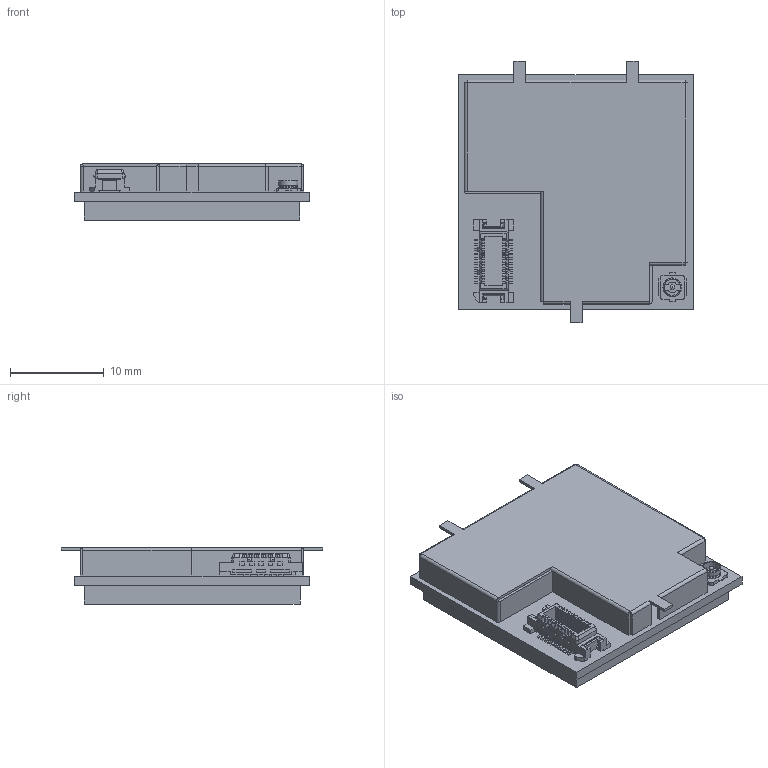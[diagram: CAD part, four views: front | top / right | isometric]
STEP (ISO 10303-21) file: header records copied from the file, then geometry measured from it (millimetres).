
FILE_DESCRIPTION( ( 'Unknown' ), '1' );
FILE_NAME( 'F:/ARCH/R1270C/Mec/Master/R1270C_CS.stp', 'Unknown', ( 'Unknown' ), ( 'Unknown' ), 'PSStep 16.0.42', 'Unknown', ' ' );
FILE_SCHEMA( ( 'AUTOMOTIVE_DESIGN { 1 0 10303 214 1 1 1 1 }' ) );
Length unit declared in the file: millimetre
Products named in the file (6): Assem1; KIBD000BQ020; KCPFS00AA001; R1270C; Schermo; Ing-Componenti
Assembly tree (5 placements, depth 2):
  Assem1
    KIBD000BQ020
    KCPFS00AA001
    R1270C
    Schermo
    Ing-Componenti
Bounding box: 25.02 x 27.89 x 6 mm (x, y, z)
Volume: 1929.3 mm3; surface area: 4267.8 mm2
Topology: 5 solids, 5 shells, 925 faces, 2592 edges, 1599 vertices
Faces by surface type: plane 872, cylinder 47, bspline 3, cone 3
Full cylindrical faces by diameter (mm): 0.5 x1, 1.7 x1, 1.86 x1, 2 x2
Entity records: 37170 total; most frequent: ORIENTED_EDGE 5160, CARTESIAN_POINT 5152, DIRECTION 4541, EDGE_CURVE 2580, LINE 2475, VECTOR 2475, VERTEX_POINT 1596, PRESENTATION_STYLE_ASSIGNMENT 1085
